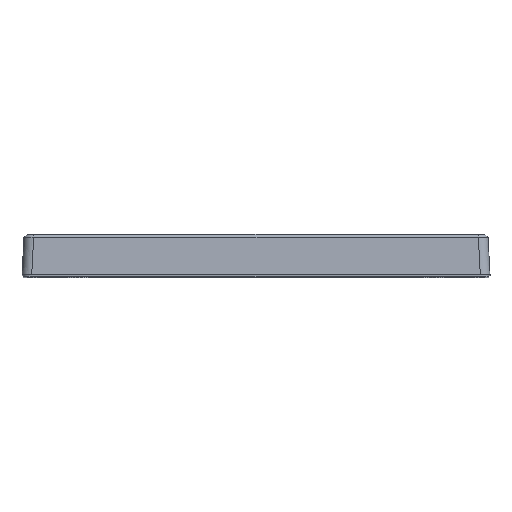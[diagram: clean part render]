
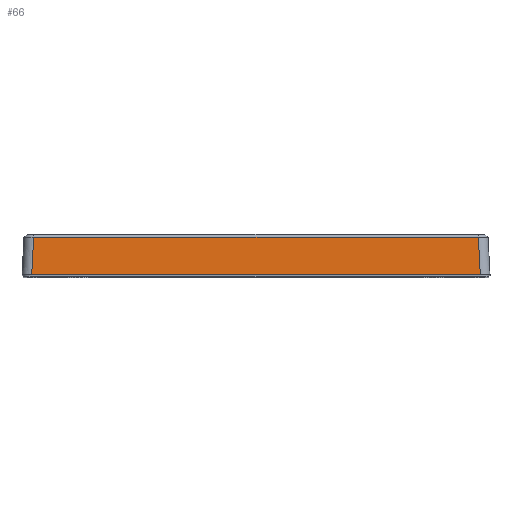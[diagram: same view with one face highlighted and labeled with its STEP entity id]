
A CAD part, top view. The second image highlights one B-rep face of the part: STEP entity #66.
In plain terms, the highlighted planar face has unit normal (0, 0.052, 0.999).
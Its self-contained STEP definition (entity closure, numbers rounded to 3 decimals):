
#64 = VERTEX_POINT ( 'NONE', #1061 ) ;
#65 = ORIENTED_EDGE ( 'NONE', *, *, #90, .T. ) ;
#66 = ADVANCED_FACE ( 'NONE', ( #1060 ), #1059, .T. ) ;
#85 = EDGE_CURVE ( 'NONE', #92, #87, #1106, .T. ) ;
#87 = VERTEX_POINT ( 'NONE', #1139 ) ;
#88 = ORIENTED_EDGE ( 'NONE', *, *, #93, .T. ) ;
#89 = EDGE_CURVE ( 'NONE', #94, #87, #1148, .T. ) ;
#90 = EDGE_CURVE ( 'NONE', #92, #64, #1146, .T. ) ;
#91 = ORIENTED_EDGE ( 'NONE', *, *, #89, .T. ) ;
#92 = VERTEX_POINT ( 'NONE', #1137 ) ;
#93 = EDGE_CURVE ( 'NONE', #64, #94, #1142, .T. ) ;
#94 = VERTEX_POINT ( 'NONE', #1204 ) ;
#95 = ORIENTED_EDGE ( 'NONE', *, *, #85, .F. ) ;
#96 = EDGE_LOOP ( 'NONE', ( #65, #88, #91, #95 ) ) ;
#690 = DIRECTION ( 'NONE',  ( -1., 0., 0. ) ) ;
#691 = CARTESIAN_POINT ( 'NONE',  ( -144.5, 1., 171.948 ) ) ;
#955 = DIRECTION ( 'NONE',  ( -1., 0., 0. ) ) ;
#973 = VECTOR ( 'NONE', #955, 1000. ) ;
#1055 = DIRECTION ( 'NONE',  ( 0., -0.999, 0.052 ) ) ;
#1056 = DIRECTION ( 'NONE',  ( 0., 0.052, 0.999 ) ) ;
#1057 = CARTESIAN_POINT ( 'NONE',  ( -144.5, 0., 172. ) ) ;
#1058 = AXIS2_PLACEMENT_3D ( 'NONE', #1057, #1056, #1055 ) ;
#1059 = PLANE ( 'NONE',  #1058 ) ;
#1060 = FACE_OUTER_BOUND ( 'NONE', #96, .T. ) ;
#1061 = CARTESIAN_POINT ( 'NONE',  ( 137.235, 24.302, 170.726 ) ) ;
#1106 = LINE ( 'NONE', #691, #973 ) ;
#1107 = VECTOR ( 'NONE', #690, 1000. ) ;
#1137 = CARTESIAN_POINT ( 'NONE',  ( 138.456, 1., 171.948 ) ) ;
#1138 = VECTOR ( 'NONE', #1140, 1000. ) ;
#1139 = CARTESIAN_POINT ( 'NONE',  ( -138.456, 1., 171.948 ) ) ;
#1140 = DIRECTION ( 'NONE',  ( -0.052, -0.997, 0.052 ) ) ;
#1141 = CARTESIAN_POINT ( 'NONE',  ( -137.146, 24.302, 170.726 ) ) ;
#1142 = LINE ( 'NONE', #1141, #1107 ) ;
#1143 = DIRECTION ( 'NONE',  ( -0.052, 0.997, -0.052 ) ) ;
#1144 = VECTOR ( 'NONE', #1143, 1000. ) ;
#1145 = CARTESIAN_POINT ( 'NONE',  ( 137.735, 14.751, 171.227 ) ) ;
#1146 = LINE ( 'NONE', #1145, #1144 ) ;
#1147 = CARTESIAN_POINT ( 'NONE',  ( -138.525, -0.312, 172.016 ) ) ;
#1148 = LINE ( 'NONE', #1147, #1138 ) ;
#1204 = CARTESIAN_POINT ( 'NONE',  ( -137.235, 24.302, 170.726 ) ) ;
